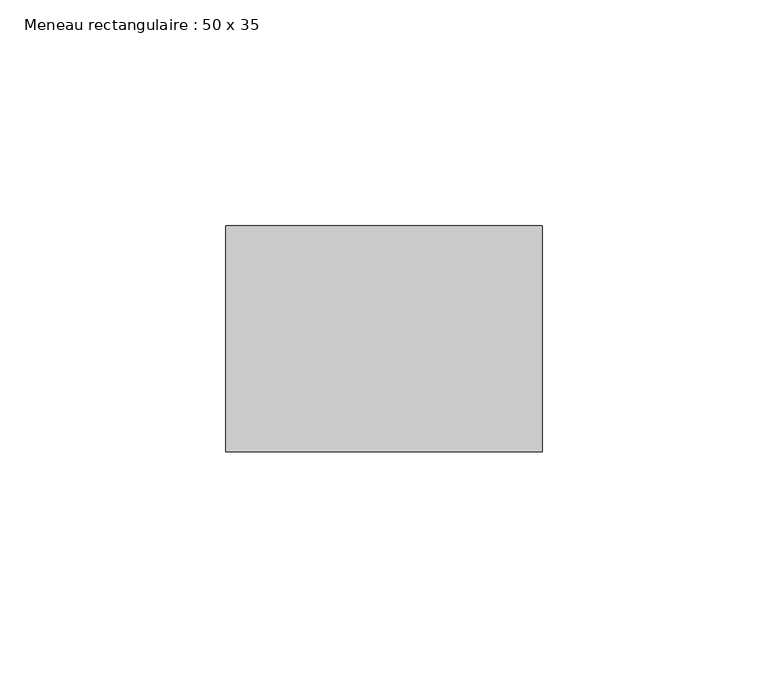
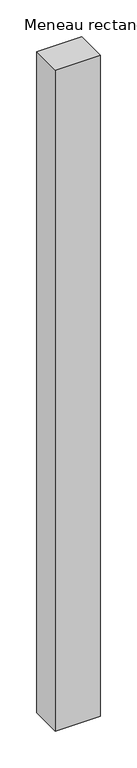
"""IFC4 building model written with IfcOpenShell, lengths in millimetres: member geometry, Meneau rectangulaire : 50 x 35."""

import ifcopenshell
import ifcopenshell.guid

model = None  # the IFC model being written
_history = None  # IfcOwnerHistory: only IFC2X3 demands one
_inside = {}  # id of a spatial element -> (the spatial element, [elements in it])
_under = {}  # id of a project, library or spatial element -> (it, [spatial elements below it])
_declared = {}  # id of a project -> (the project, [libraries it declares])
_typed = {}  # id of a type object -> (the type object, [elements of that type])
_made_of = {}  # id of a material, layer set ... -> (it, [elements and type objects made of it])


def new_model(schema):
    """Start an empty IFC model of exactly this schema.

    Asked for "IFC4X3", IfcOpenShell would pick the latest addendum, in which some entities
    have other attributes; the version numbers below select the first issue.
    IFC2X3 requires an IfcOwnerHistory on every rooted entity: one is made here for all.
    """
    global model, _history
    if schema == "IFC4X3":
        model = ifcopenshell.file(schema_version=(4, 3, 0, 0))
    else:
        model = ifcopenshell.file(schema=schema)
    _inside.clear()
    _under.clear()
    _declared.clear()
    _typed.clear()
    _made_of.clear()
    _history = None
    if model.schema == "IFC2X3":
        org = make("IfcOrganization", Name="unknown")
        user = make(
            "IfcPersonAndOrganization",
            ThePerson=make("IfcPerson", FamilyName="unknown"),
            TheOrganization=org,
        )
        app = make(
            "IfcApplication",
            ApplicationDeveloper=org,
            Version="unknown",
            ApplicationFullName="unknown",
            ApplicationIdentifier="unknown",
        )
        _history = make(
            "IfcOwnerHistory",
            OwningUser=user,
            OwningApplication=app,
            ChangeAction="ADDED",
            CreationDate=0,
        )
    return model


def make(cls, **values):
    """One entity of the class cls with the attributes given. An attribute that is None is left unset."""
    return model.create_entity(
        cls, **{name: value for name, value in values.items() if value is not None}
    )


def rooted(cls, **values):
    """An entity with a GlobalId (a new one), such as an element, a storey or a relation."""
    return make(cls, GlobalId=ifcopenshell.guid.new(), OwnerHistory=_history, **values)


def si_unit(unit_type, name, prefix=None):
    """IfcSIUnit, for example si_unit("LENGTHUNIT", "METRE", prefix="MILLI")."""
    return make("IfcSIUnit", UnitType=unit_type, Prefix=prefix, Name=name)


def assignment(units):
    """IfcUnitAssignment: the units of a project."""
    return None if units is None else make("IfcUnitAssignment", Units=units)


def point(xyz):
    """IfcCartesianPoint."""
    return None if xyz is None else make("IfcCartesianPoint", Coordinates=xyz)


def direction(xyz):
    """IfcDirection."""
    return None if xyz is None else make("IfcDirection", DirectionRatios=xyz)


def frame(location, z_axis=None, x_axis=None):
    """IfcAxis2Placement3D, a coordinate frame: its origin and axes. An axis left out is left unset."""
    return make(
        "IfcAxis2Placement3D",
        Location=point(location),
        Axis=direction(z_axis),
        RefDirection=direction(x_axis),
    )


def origin():
    """The frame at (0, 0, 0) with its axes left unset."""
    return frame((0.0, 0.0, 0.0))


def place(relative_to, where):
    """IfcLocalPlacement: puts the frame where relative to a parent placement (None: the world)."""
    return make(
        "IfcLocalPlacement", PlacementRelTo=relative_to, RelativePlacement=where
    )


def context(
    kind, dimensions, precision=None, world=None, true_north=None, identifier=None
):
    """IfcGeometricRepresentationContext, for example the 3D "Model" context."""
    return make(
        "IfcGeometricRepresentationContext",
        ContextIdentifier=identifier,
        ContextType=kind,
        CoordinateSpaceDimension=dimensions,
        Precision=precision,
        WorldCoordinateSystem=world,
        TrueNorth=true_north,
    )


def project(units=None, contexts=None):
    """IfcProject with its units and contexts."""
    return rooted(
        "IfcProject",
        Name="project",
        RepresentationContexts=contexts,
        UnitsInContext=assignment(units),
    )


def spatial(cls, under=None, at=None, **own):
    """A site, building, storey or space (cls), placed at a placement, below another one or the project."""
    s = rooted(cls, ObjectPlacement=at, **own)
    if under is not None:
        _under.setdefault(under.id(), (under, []))[1].append(s)
    return s


def polyline(points):
    """IfcPolyline through the points."""
    return make("IfcPolyline", Points=[point(p) for p in points])


def outline(outer, holes=None, kind="AREA"):
    """IfcArbitraryClosedProfileDef: a profile drawn as a closed curve; with holes, ...WithVoids."""
    if holes is None:
        return make("IfcArbitraryClosedProfileDef", ProfileType=kind, OuterCurve=outer)
    return make(
        "IfcArbitraryProfileDefWithVoids",
        ProfileType=kind,
        OuterCurve=outer,
        InnerCurves=holes,
    )


def extrude(swept, where, along, depth):
    """IfcExtrudedAreaSolid: the profile swept, set in the frame where, extruded along a direction by depth."""
    return make(
        "IfcExtrudedAreaSolid",
        SweptArea=swept,
        Position=where,
        ExtrudedDirection=direction(along),
        Depth=depth,
    )


def shape(context_of_items, identifier, shape_type, items):
    """IfcShapeRepresentation: the items that make up one representation, for example the "Body"."""
    return make(
        "IfcShapeRepresentation",
        ContextOfItems=context_of_items,
        RepresentationIdentifier=identifier,
        RepresentationType=shape_type,
        Items=items,
    )


def source(mapping_origin, context_of_items, identifier, shape_type, items):
    """IfcRepresentationMap: a shape defined once, which mapped items show again and again."""
    return make(
        "IfcRepresentationMap",
        MappingOrigin=mapping_origin,
        MappedRepresentation=shape(context_of_items, identifier, shape_type, items),
    )


def transform(
    local_origin,
    x_axis=None,
    y_axis=None,
    z_axis=None,
    scale=None,
    scale2=None,
    scale3=None,
    uniform=True,
):
    """IfcCartesianTransformationOperator3D, or its non-uniform kind. x_axis, y_axis, z_axis: its Axis1, 2, 3."""
    if uniform:
        return make(
            "IfcCartesianTransformationOperator3D",
            Axis1=direction(x_axis),
            Axis2=direction(y_axis),
            LocalOrigin=point(local_origin),
            Scale=scale,
            Axis3=direction(z_axis),
        )
    return make(
        "IfcCartesianTransformationOperator3DnonUniform",
        Axis1=direction(x_axis),
        Axis2=direction(y_axis),
        LocalOrigin=point(local_origin),
        Scale=scale,
        Axis3=direction(z_axis),
        Scale2=scale2,
        Scale3=scale3,
    )


def mapped(mapping_source, mapping_target):
    """IfcMappedItem: shows the shape of a source again, moved by a transform."""
    return make(
        "IfcMappedItem", MappingSource=mapping_source, MappingTarget=mapping_target
    )


def made_of(thing, what):
    """Note that an element or type object is made of a material, layer set ...; save() writes the relation."""
    if what is not None:
        _made_of.setdefault(what.id(), (what, []))[1].append(thing)
    return thing


def element(
    cls,
    number,
    at=None,
    inside=None,
    cuts=None,
    type_object=None,
    material=None,
    context=None,
    identifier="Body",
    shape_type=None,
    held_by="IfcProductDefinitionShape",
    body=None,
    shapes=None,
    **own,
):
    """One element of the class cls, such as IfcWall. Its Tag is "e" and its number.

    at: its placement. inside: the storey or other place that contains it. cuts: it is an
    opening in that element (IfcRelVoidsElement). A single representation is given by context,
    identifier, shape_type and body (its items); several are given by shapes. held_by: the class
    of the entity that holds the representations. save() writes the other relations.
    """
    e = rooted(cls, Tag="e%d" % number, ObjectPlacement=at, **own)
    if body is not None:
        shapes = [shape(context, identifier, shape_type, body)]
    if shapes is not None:
        e.Representation = make(held_by, Representations=shapes)
    if inside is not None:
        _inside.setdefault(inside.id(), (inside, []))[1].append(e)
    if cuts is not None:
        rooted(
            "IfcRelVoidsElement", RelatingBuildingElement=cuts, RelatedOpeningElement=e
        )
    if type_object is not None:
        _typed.setdefault(type_object.id(), (type_object, []))[1].append(e)
    return made_of(e, material)


def aggregate(whole, parts):
    """IfcRelAggregates: a whole, such as a stair, and the parts it consists of."""
    return rooted("IfcRelAggregates", RelatingObject=whole, RelatedObjects=parts)


def save(model, path):
    """Write the relations noted so far, then the file.

    IfcRelAggregates (storeys below a building ...), IfcRelContainedInSpatialStructure (elements
    in a storey), IfcRelDefinesByType, IfcRelAssociatesMaterial and IfcRelDeclares: one each for
    every whole, place, type object, material and project.
    """
    for whole, parts in _under.values():
        aggregate(whole, parts)
    for where, things in _inside.values():
        rooted(
            "IfcRelContainedInSpatialStructure",
            RelatedElements=things,
            RelatingStructure=where,
        )
    for kind, things in _typed.values():
        rooted("IfcRelDefinesByType", RelatedObjects=things, RelatingType=kind)
    for what, things in _made_of.values():
        rooted("IfcRelAssociatesMaterial", RelatedObjects=things, RelatingMaterial=what)
    for by, libraries in _declared.values():
        rooted("IfcRelDeclares", RelatingContext=by, RelatedDefinitions=libraries)
    model.write(path)


def meneau_rectangulaire_50_x_35_b0c26513(model_context):
    return source(origin(), model_context, "Body", "SweptSolid", [
        extrude(outline(polyline([(35.0, 0.0), (35.0, -50.0), (-35.0, -50.0), (-35.0, 0.0), (35.0, 0.0)])), frame((0.0, 0.0, -1094.2769057), z_axis=(0.0, 0.0, 1.0), x_axis=(1.0, 0.0, 0.0)), (0.0, 0.0, 1.0), 1094.2769057),
    ])


if __name__ == "__main__":
    model = new_model("IFC4")
    model_context = context("Model", 3, world=origin())
    ifc_project = project(units=[si_unit("LENGTHUNIT", "METRE", prefix="MILLI")], contexts=[model_context])
    site = spatial("IfcSite", under=ifc_project)
    building = spatial("IfcBuilding", under=site)
    placement = place(None, origin())
    meneau_rectangulaire_50_x_35_shape = meneau_rectangulaire_50_x_35_b0c26513(model_context)
    element("IfcMember", 1, ObjectType="Meneau rectangulaire : 50 x 35", at=placement, inside=building, context=model_context, shape_type="MappedRepresentation", body=[
        mapped(meneau_rectangulaire_50_x_35_shape, transform((0.0, 0.0, 0.0), x_axis=(1.0, 0.0, 0.0), y_axis=(0.0, 1.0, 0.0), z_axis=(0.0, 0.0, 1.0))),
    ])
    save(model, "model.ifc")
